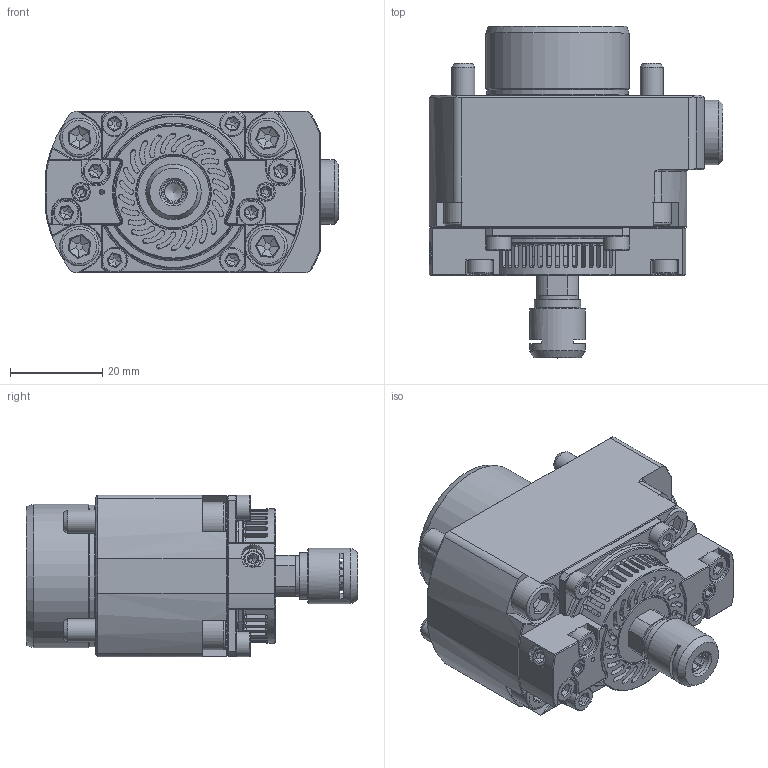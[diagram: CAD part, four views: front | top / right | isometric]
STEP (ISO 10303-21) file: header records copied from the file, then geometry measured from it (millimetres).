
FILE_DESCRIPTION (( 'STEP AP214' ), '1' );
FILE_NAME ('97-100-310 - detail.STEP', '2024-11-04T14:00:02', ( 'pc' ), ( '' ), 'SwSTEP 2.0', 'SolidWorks 2024', '' );
FILE_SCHEMA (( 'AUTOMOTIVE_DESIGN' ));
Length unit declared in the file: millimetre
Products named in the file (1): 97-100-310 - detail
Bounding box: 63.5 x 71.78 x 35 mm (x, y, z)
Volume: 74802.8 mm3; surface area: 34845.6 mm2
Topology: 27 solids, 27 shells, 1333 faces, 3494 edges, 2181 vertices
Faces by surface type: plane 671, cylinder 364, cone 203, torus 95
Full cylindrical faces by diameter (mm): 1 x1, 1.2 x2, 2.5 x8, 3 x10, 3.2 x8, 3.3 x4, 4 x9, 4.2 x1, 5 x5, 5.2 x2, 5.5 x12, 7 x4, 7.782 x2, 8.5 x4, 8.8 x2, 8.9 x1, 9.188 x1, 9.728 x2, 10 x1, 10.2 x1, 12 x3, 14 x2, 15 x1, 15.5 x1, 16 x1, 22.2 x1, 25 x1, 25.5 x1, 26 x2, 26.4 x1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
Entity records: 41717 total; most frequent: CARTESIAN_POINT 10081, ORIENTED_EDGE 6416, DIRECTION 6310, EDGE_CURVE 3208, AXIS2_PLACEMENT_3D 2329, VERTEX_POINT 2125, EDGE_LOOP 1695, LINE 1652
